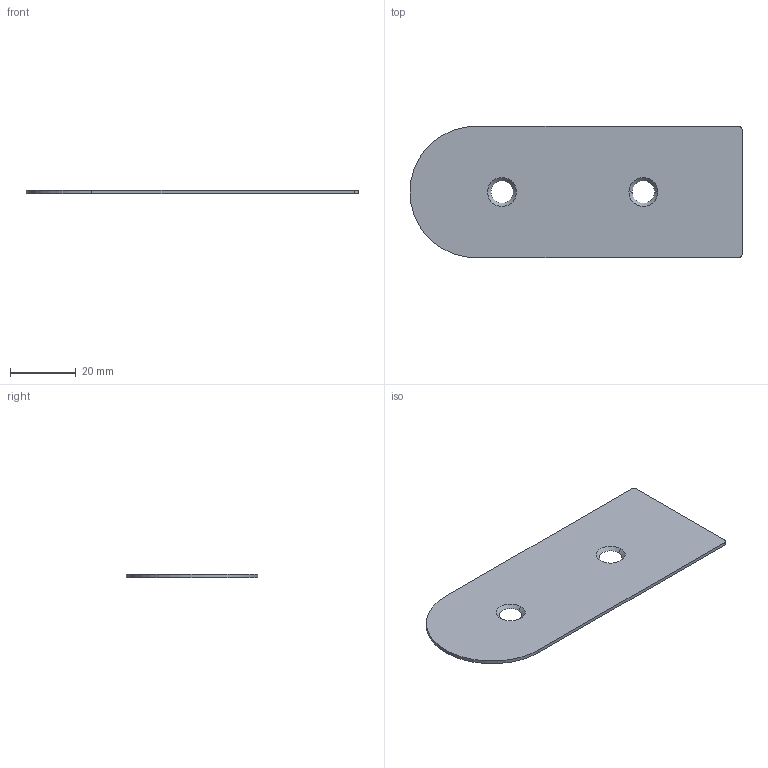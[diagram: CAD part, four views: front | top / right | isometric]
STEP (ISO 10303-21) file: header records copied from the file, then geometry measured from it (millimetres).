
FILE_DESCRIPTION((''),'2;1');
FILE_NAME('895-CP','2022-03-15T',('Administrator'),(''),'PRO/ENGINEER BY PARAMETRIC TECHNOLOGY CORPORATION, 2010480','PRO/ENGINEER BY PARAMETRIC TECHNOLOGY CORPORATION, 2010480','');
FILE_SCHEMA(('CONFIG_CONTROL_DESIGN'));
Length unit declared in the file: millimetre
Products named in the file (1): 895-CP
Bounding box: 101 x 40 x 1 mm (x, y, z)
Volume: 3771.8 mm3; surface area: 7874.8 mm2
Topology: 1 solids, 1 shells, 12 faces, 30 edges, 20 vertices
Faces by surface type: plane 5, cone 4, cylinder 3
Entity records: 414 total; most frequent: DIRECTION 68, CARTESIAN_POINT 62, ORIENTED_EDGE 60, EDGE_CURVE 30, AXIS2_PLACEMENT_3D 26, VERTEX_POINT 20, VECTOR 16, LINE 16
